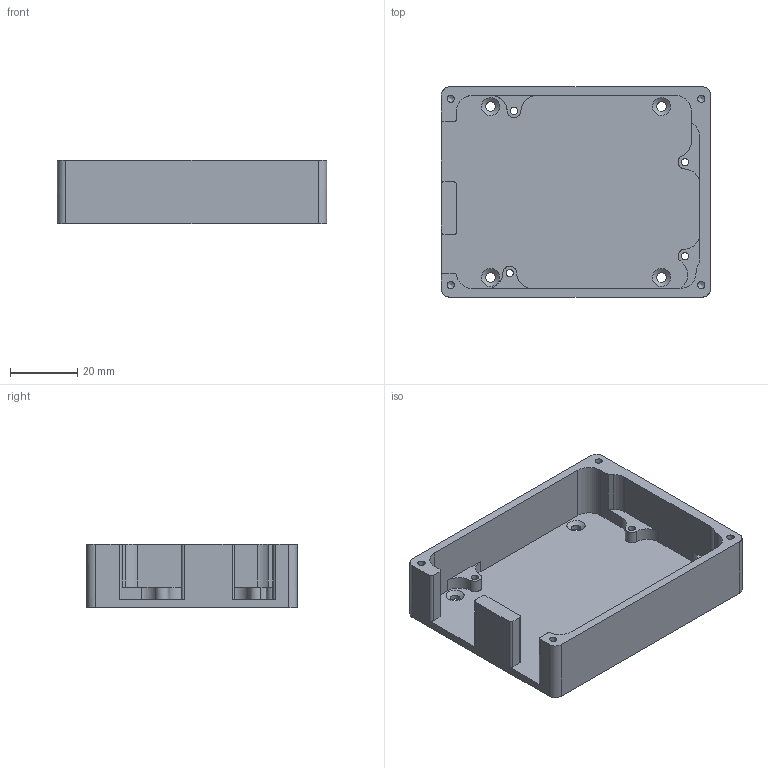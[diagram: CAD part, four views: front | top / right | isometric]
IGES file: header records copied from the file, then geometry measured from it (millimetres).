
Global section: file name: arduino_case_v1_i4a v46; native system: unknown; preprocessor: unknown; author: unknown; organization: unknown; date: 20160322.101938; units: inch
Bounding box: 80.01 x 62.48 x 18.8 mm (x, y, z)
Volume: 24294.8 mm3; surface area: 19128.8 mm2
Topology: 1 solids, 1 shells, 74 faces, 235 edges, 163 vertices
Faces by surface type: bspline 74
